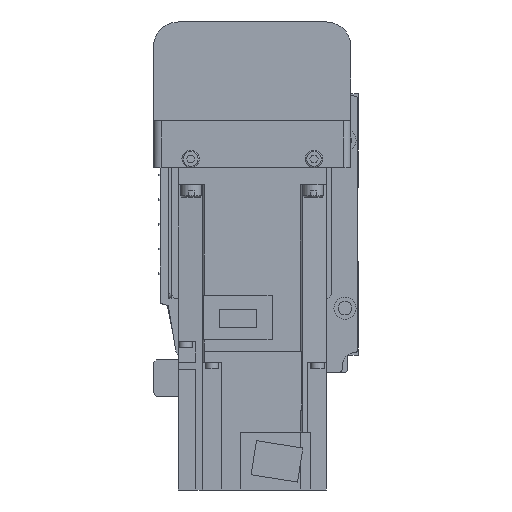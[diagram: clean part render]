
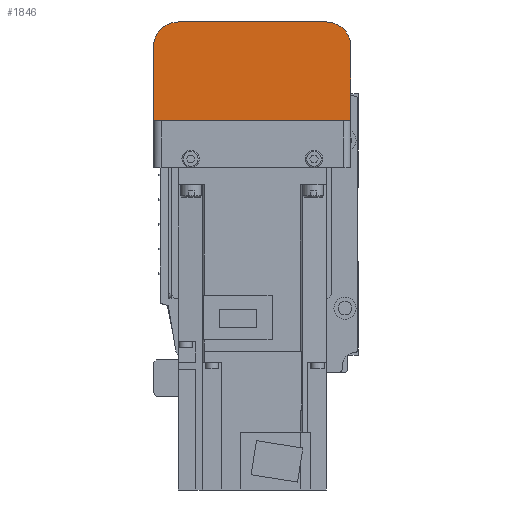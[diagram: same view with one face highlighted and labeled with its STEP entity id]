
A CAD part, left-side view. The second image highlights one B-rep face of the part: STEP entity #1846.
In plain terms, the highlighted planar face has unit normal (-1, 0, 0).
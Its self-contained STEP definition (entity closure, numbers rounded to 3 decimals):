
#1846 = ADVANCED_FACE( '', ( #3909 ), #3910, .F. );
#3909 = FACE_OUTER_BOUND( '', #6181, .T. );
#3910 = PLANE( '', #6182 );
#6181 = EDGE_LOOP( '', ( #11198, #11199, #11200, #11201, #11202, #11203 ) );
#6182 = AXIS2_PLACEMENT_3D( '', #11204, #11205, #11206 );
#11198 = ORIENTED_EDGE( '', *, *, #14896, .F. );
#11199 = ORIENTED_EDGE( '', *, *, #14320, .F. );
#11200 = ORIENTED_EDGE( '', *, *, #14868, .F. );
#11201 = ORIENTED_EDGE( '', *, *, #15113, .F. );
#11202 = ORIENTED_EDGE( '', *, *, #14522, .F. );
#11203 = ORIENTED_EDGE( '', *, *, #14551, .F. );
#11204 = CARTESIAN_POINT( '', ( -192., 37., 7. ) );
#11205 = DIRECTION( '', ( 1., 0., 0. ) );
#11206 = DIRECTION( '', ( 0., 0., -1. ) );
#14320 = EDGE_CURVE( '', #17587, #17589, #17590, .T. );
#14522 = EDGE_CURVE( '', #17879, #17881, #17882, .T. );
#14551 = EDGE_CURVE( '', #17923, #17879, #17925, .T. );
#14868 = EDGE_CURVE( '', #18346, #17587, #18348, .T. );
#14896 = EDGE_CURVE( '', #17589, #17923, #18385, .T. );
#15113 = EDGE_CURVE( '', #17881, #18346, #18655, .T. );
#17587 = VERTEX_POINT( '', #21873 );
#17589 = VERTEX_POINT( '', #21876 );
#17590 = LINE( '', #21877, #21878 );
#17879 = VERTEX_POINT( '', #22290 );
#17881 = VERTEX_POINT( '', #22293 );
#17882 = CIRCLE( '', #22294, 10. );
#17923 = VERTEX_POINT( '', #22344 );
#17925 = LINE( '', #22347, #22348 );
#18346 = VERTEX_POINT( '', #22930 );
#18348 = CIRCLE( '', #22933, 10. );
#18385 = LINE( '', #22984, #22985 );
#18655 = LINE( '', #23352, #23353 );
#21873 = CARTESIAN_POINT( '', ( -192., 40., -42. ) );
#21876 = CARTESIAN_POINT( '', ( -192., 40., -12.1 ) );
#21877 = CARTESIAN_POINT( '', ( -192., 40., -42. ) );
#21878 = VECTOR( '', #25441, 1000. );
#22290 = CARTESIAN_POINT( '', ( -192., -40., -42. ) );
#22293 = CARTESIAN_POINT( '', ( -192., -30., -52. ) );
#22294 = AXIS2_PLACEMENT_3D( '', #25668, #25669, #25670 );
#22344 = CARTESIAN_POINT( '', ( -192., -40., -12.1 ) );
#22347 = CARTESIAN_POINT( '', ( -192., -40., -12.1 ) );
#22348 = VECTOR( '', #25714, 1000. );
#22930 = CARTESIAN_POINT( '', ( -192., 30., -52. ) );
#22933 = AXIS2_PLACEMENT_3D( '', #26060, #26061, #26062 );
#22984 = CARTESIAN_POINT( '', ( -192., 50., -12.1 ) );
#22985 = VECTOR( '', #26089, 1000. );
#23352 = CARTESIAN_POINT( '', ( -192., -30., -52. ) );
#23353 = VECTOR( '', #26301, 1000. );
#25441 = DIRECTION( '', ( 0., 0., 1. ) );
#25668 = CARTESIAN_POINT( '', ( -192., -30., -42. ) );
#25669 = DIRECTION( '', ( 1., 0., 0. ) );
#25670 = DIRECTION( '', ( 0., 0., -1. ) );
#25714 = DIRECTION( '', ( 0., 0., -1. ) );
#26060 = CARTESIAN_POINT( '', ( -192., 30., -42. ) );
#26061 = DIRECTION( '', ( 1., 0., 0. ) );
#26062 = DIRECTION( '', ( 0., 0., -1. ) );
#26089 = DIRECTION( '', ( 0., -1., 0. ) );
#26301 = DIRECTION( '', ( 0., 1., 0. ) );
